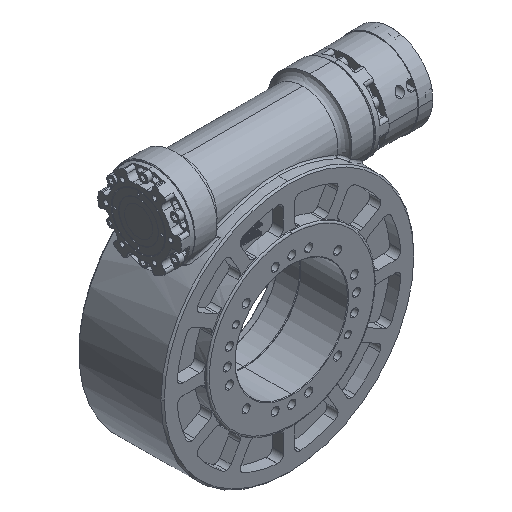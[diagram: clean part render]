
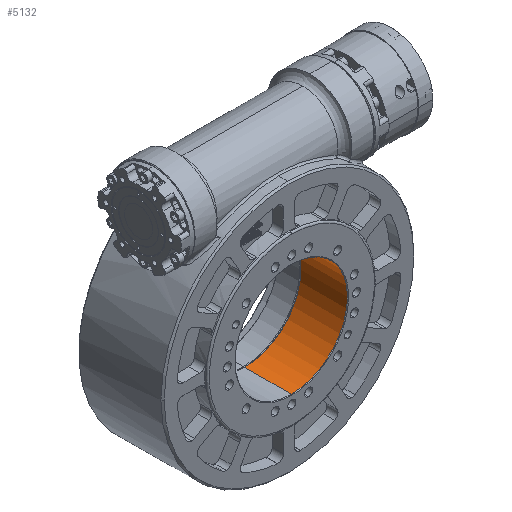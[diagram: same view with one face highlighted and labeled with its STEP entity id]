
A CAD part, isometric view. The second image highlights one B-rep face of the part: STEP entity #5132.
In plain terms, the highlighted cylindrical face has radius 100 mm (diameter 200 mm), a partial arc.
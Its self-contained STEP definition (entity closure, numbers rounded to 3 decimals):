
#3526 = CARTESIAN_POINT ( 'NONE',  ( 0., -4., 100. ) ) ;
#3739 = LINE ( 'NONE', #76784, #37325 ) ;
#4479 = CARTESIAN_POINT ( 'NONE',  ( 0., 79., 0. ) ) ;
#4748 = CARTESIAN_POINT ( 'NONE',  ( 0., 79., -100. ) ) ;
#5132 = ADVANCED_FACE ( 'NONE', ( #60579 ), #22780, .F. ) ;
#7025 = CIRCLE ( 'NONE', #27218, 100. ) ;
#11216 = DIRECTION ( 'NONE',  ( 0., 0., 1. ) ) ;
#12484 = EDGE_LOOP ( 'NONE', ( #74669, #15467, #22011, #51831 ) ) ;
#15467 = ORIENTED_EDGE ( 'NONE', *, *, #73170, .T. ) ;
#16615 = AXIS2_PLACEMENT_3D ( 'NONE', #54468, #56783, #54018 ) ;
#18161 = VERTEX_POINT ( 'NONE', #47356 ) ;
#22011 = ORIENTED_EDGE ( 'NONE', *, *, #33164, .T. ) ;
#22780 = CYLINDRICAL_SURFACE ( 'NONE', #16615, 100. ) ;
#27218 = AXIS2_PLACEMENT_3D ( 'NONE', #79097, #38914, #85796 ) ;
#33164 = EDGE_CURVE ( 'NONE', #34027, #18161, #58148, .T. ) ;
#34027 = VERTEX_POINT ( 'NONE', #3526 ) ;
#36501 = AXIS2_PLACEMENT_3D ( 'NONE', #4479, #51435, #11216 ) ;
#36628 = CARTESIAN_POINT ( 'NONE',  ( 0., -4., -100. ) ) ;
#37325 = VECTOR ( 'NONE', #83477, 1000. ) ;
#38875 = CARTESIAN_POINT ( 'NONE',  ( 0., -20., 100. ) ) ;
#38914 = DIRECTION ( 'NONE',  ( 0., -1., 0. ) ) ;
#47356 = CARTESIAN_POINT ( 'NONE',  ( 0., 79., 100. ) ) ;
#51435 = DIRECTION ( 'NONE',  ( 0., -1., 0. ) ) ;
#51831 = ORIENTED_EDGE ( 'NONE', *, *, #64009, .F. ) ;
#54018 = DIRECTION ( 'NONE',  ( 0., 0., 1. ) ) ;
#54468 = CARTESIAN_POINT ( 'NONE',  ( 0., -20., 0. ) ) ;
#56783 = DIRECTION ( 'NONE',  ( 0., 1., 0. ) ) ;
#58148 = LINE ( 'NONE', #38875, #76011 ) ;
#60579 = FACE_OUTER_BOUND ( 'NONE', #12484, .T. ) ;
#63634 = CIRCLE ( 'NONE', #36501, 100. ) ;
#64009 = EDGE_CURVE ( 'NONE', #80789, #18161, #63634, .T. ) ;
#71795 = VERTEX_POINT ( 'NONE', #36628 ) ;
#73170 = EDGE_CURVE ( 'NONE', #71795, #34027, #7025, .T. ) ;
#74368 = EDGE_CURVE ( 'NONE', #71795, #80789, #3739, .T. ) ;
#74669 = ORIENTED_EDGE ( 'NONE', *, *, #74368, .F. ) ;
#76011 = VECTOR ( 'NONE', #85752, 1000. ) ;
#76784 = CARTESIAN_POINT ( 'NONE',  ( 0., -20., -100. ) ) ;
#79097 = CARTESIAN_POINT ( 'NONE',  ( 0., -4., 0. ) ) ;
#80789 = VERTEX_POINT ( 'NONE', #4748 ) ;
#83477 = DIRECTION ( 'NONE',  ( 0., 1., 0. ) ) ;
#85752 = DIRECTION ( 'NONE',  ( 0., 1., 0. ) ) ;
#85796 = DIRECTION ( 'NONE',  ( 0., 0., -1. ) ) ;
